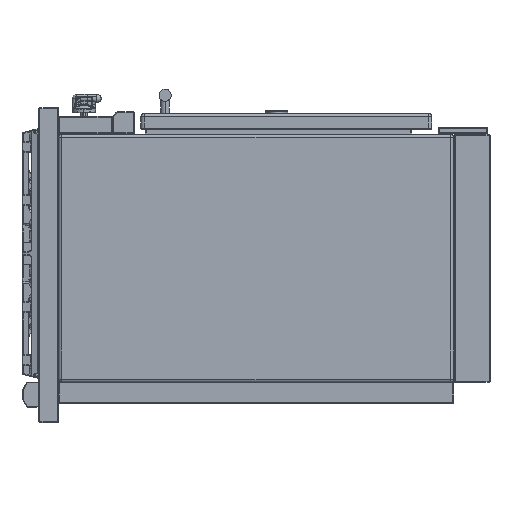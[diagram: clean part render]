
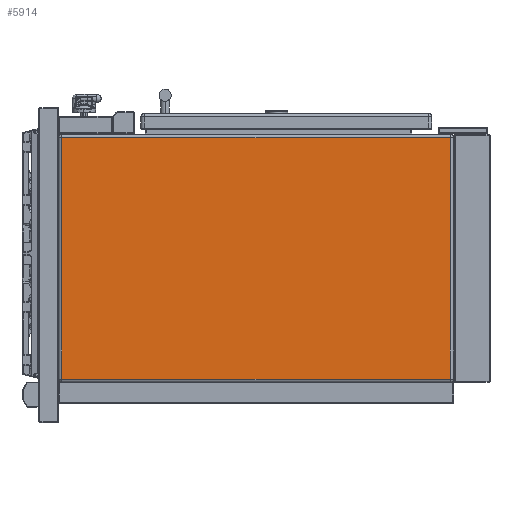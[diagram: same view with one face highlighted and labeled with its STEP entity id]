
A CAD part, left-side view. The second image highlights one B-rep face of the part: STEP entity #5914.
In plain terms, the highlighted planar face has unit normal (-1, 0, 0).
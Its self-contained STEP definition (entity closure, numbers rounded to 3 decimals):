
#1038=DIRECTION('',(0.,1.,0.));
#1039=VECTOR('',#1038,801.);
#1040=CARTESIAN_POINT('',(-1100.,82.,249.));
#1041=LINE('',#1040,#1039);
#1042=DIRECTION('',(0.,0.,1.));
#1043=VECTOR('',#1042,498.);
#1044=CARTESIAN_POINT('',(-1100.,82.,-249.));
#1045=LINE('',#1044,#1043);
#1046=DIRECTION('',(0.,-1.,0.));
#1047=VECTOR('',#1046,801.);
#1048=CARTESIAN_POINT('',(-1100.,883.,-249.));
#1049=LINE('',#1048,#1047);
#1050=DIRECTION('',(0.,0.,-1.));
#1051=VECTOR('',#1050,498.);
#1052=CARTESIAN_POINT('',(-1100.,883.,249.));
#1053=LINE('',#1052,#1051);
#3712=CARTESIAN_POINT('',(-1100.,82.,249.));
#3713=CARTESIAN_POINT('',(-1100.,883.,249.));
#3714=VERTEX_POINT('',#3712);
#3715=VERTEX_POINT('',#3713);
#3716=CARTESIAN_POINT('',(-1100.,82.,-249.));
#3717=VERTEX_POINT('',#3716);
#3740=CARTESIAN_POINT('',(-1100.,883.,-249.));
#3741=VERTEX_POINT('',#3740);
#5900=CARTESIAN_POINT('',(-1100.,0.,0.));
#5901=DIRECTION('',(1.,0.,0.));
#5902=DIRECTION('',(0.,0.,-1.));
#5903=AXIS2_PLACEMENT_3D('',#5900,#5901,#5902);
#5904=PLANE('',#5903);
#5906=ORIENTED_EDGE('',*,*,#5905,.F.);
#5908=ORIENTED_EDGE('',*,*,#5907,.F.);
#5909=ORIENTED_EDGE('',*,*,#5884,.F.);
#5911=ORIENTED_EDGE('',*,*,#5910,.F.);
#5912=EDGE_LOOP('',(#5906,#5908,#5909,#5911));
#5913=FACE_OUTER_BOUND('',#5912,.F.);
#5884=EDGE_CURVE('',#3741,#3717,#1049,.T.);
#5905=EDGE_CURVE('',#3714,#3715,#1041,.T.);
#5907=EDGE_CURVE('',#3717,#3714,#1045,.T.);
#5910=EDGE_CURVE('',#3715,#3741,#1053,.T.);
#5914=ADVANCED_FACE('',(#5913),#5904,.F.);
